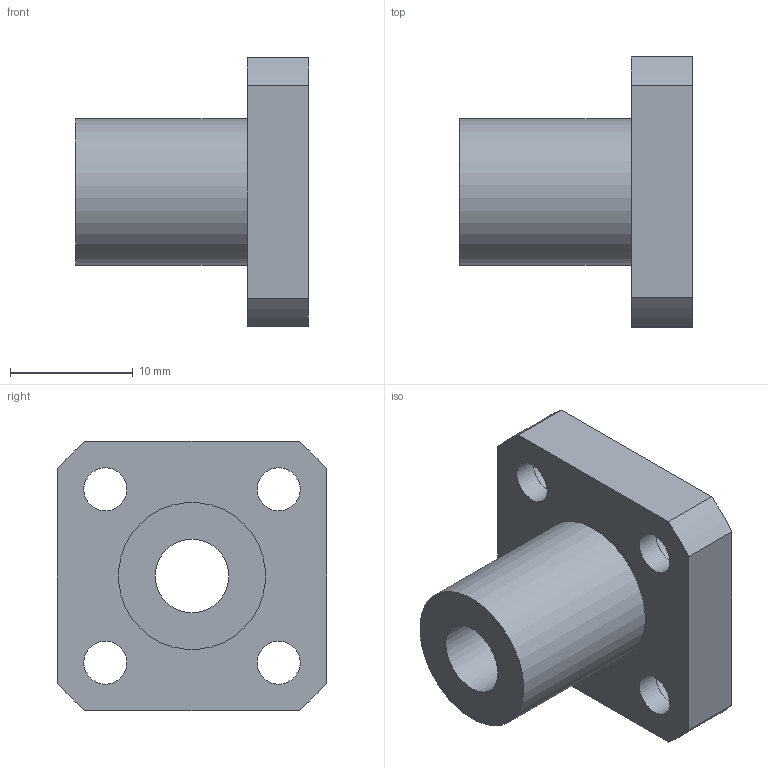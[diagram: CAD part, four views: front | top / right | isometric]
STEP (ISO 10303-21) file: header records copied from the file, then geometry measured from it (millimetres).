
FILE_DESCRIPTION(/* description */ (''),/* implementation_level */ '2;1');
FILE_NAME(/* name */ 'LMK6UU',/* time_stamp */ '2019-07-09T15:13:45+02:00',/* author */ ('VĂ©gh MĂˇtĂ©'),/* organization */ ('Bearing Kft'),/* preprocessor_version */ 'ST-DEVELOPER v16.7',/* originating_system */ 'DEX',/* authorisation */ $);
FILE_SCHEMA (('AUTOMOTIVE_DESIGN {1 0 10303 214 3 1 1}'));
Length unit declared in the file: millimetre
Products named in the file (1): LMK6UU
Bounding box: 19 x 22 x 22 mm (x, y, z)
Volume: 2991.7 mm3; surface area: 2437.7 mm2
Topology: 1 solids, 1 shells, 325 faces, 823 edges, 550 vertices
Faces by surface type: plane 245, bspline 64, cylinder 16
Full cylindrical faces by diameter (mm): 3.5 x4, 6 x5, 12 x1
Entity records: 11949 total; most frequent: CARTESIAN_POINT 4521, ORIENTED_EDGE 1614, DIRECTION 1235, EDGE_CURVE 807, LINE 647, VECTOR 647, VERTEX_POINT 546, EDGE_LOOP 397
